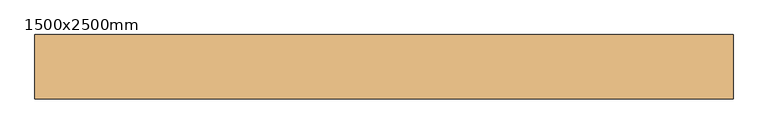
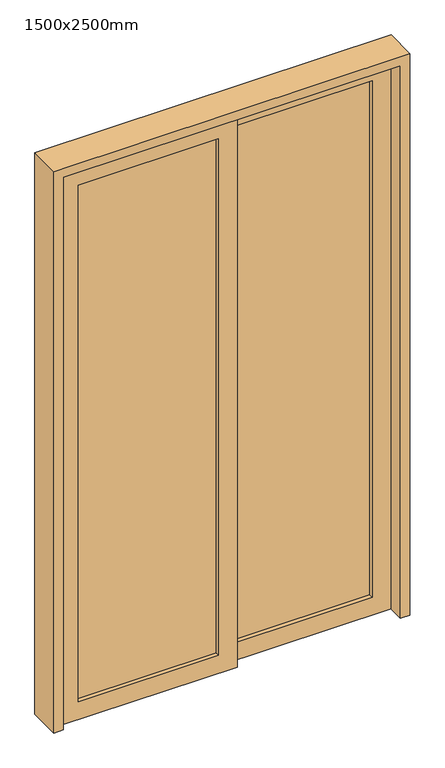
"""IFC4 building model written with IfcOpenShell, lengths in millimetres: door geometry, 双扇推拉门 : 1500x2500mm."""

from ifc_helpers import new_model, si_unit, frame, origin, place, context, project, spatial, polyline, outline, extrude, source, transform, mapped, element, save


def door_1500x2500mm_faec45d4(model_context):
    return source(origin(), model_context, "Body", "SweptSolid", [
        extrude(outline(polyline([(2500.0, -625.0), (0.0, -625.0), (0.0, -585.0), (2460.0, -585.0), (2460.0, 835.0), (0.0, 835.0), (0.0, 875.0), (2500.0, 875.0), (2500.0, -625.0)])), frame((0.0, -29.0, 0.0), z_axis=(0.0, 1.0, 0.0), x_axis=(0.0, 0.0, 1.0)), (0.0, 0.0, 1.0), 138.0),
        extrude(outline(polyline([(2460.0, 85.0), (0.0, 85.0), (0.0, 835.0), (2460.0, 835.0), (2460.0, 85.0)]), holes=[polyline([(2380.0, 165.0), (2380.0, 755.0), (80.0, 755.0), (80.0, 165.0), (2380.0, 165.0)])]), frame((0.0, 40.0, 0.0), z_axis=(0.0, 1.0, 0.0), x_axis=(0.0, 0.0, 1.0)), (0.0, 0.0, 1.0), 40.0),
        extrude(outline(polyline([(755.0, 62.5), (755.0, 57.5), (165.0, 57.5), (165.0, 62.5), (755.0, 62.5)])), frame((0.0, 0.0, 80.0), z_axis=(0.0, 0.0, 1.0), x_axis=(1.0, 0.0, 0.0)), (0.0, 0.0, 1.0), 2300.0),
        extrude(outline(polyline([(2460.0, -585.0), (0.0, -585.0), (0.0, 165.0), (2460.0, 165.0), (2460.0, -585.0)]), holes=[polyline([(2380.0, -505.0), (2380.0, 85.0), (80.0, 85.0), (80.0, -505.0), (2380.0, -505.0)])]), frame((0.0, 0.0, 0.0), z_axis=(0.0, 1.0, 0.0), x_axis=(0.0, 0.0, 1.0)), (0.0, 0.0, 1.0), 40.0),
        extrude(outline(polyline([(85.0, 22.5), (85.0, 17.5), (-505.0, 17.5), (-505.0, 22.5), (85.0, 22.5)])), frame((0.0, 0.0, 80.0), z_axis=(0.0, 0.0, 1.0), x_axis=(1.0, 0.0, 0.0)), (0.0, 0.0, 1.0), 2300.0),
    ])


if __name__ == "__main__":
    model = new_model("IFC4")
    model_context = context("Model", 3, world=origin())
    ifc_project = project(units=[si_unit("LENGTHUNIT", "METRE", prefix="MILLI")], contexts=[model_context])
    site = spatial("IfcSite", under=ifc_project)
    building = spatial("IfcBuilding", under=site)
    placement = place(None, origin())
    door_1500x2500mm_shape = door_1500x2500mm_faec45d4(model_context)
    element("IfcDoor", 1, ObjectType="双扇推拉门 : 1500x2500mm", at=placement, inside=building, context=model_context, shape_type="MappedRepresentation", body=[
        mapped(door_1500x2500mm_shape, transform((0.0, 0.0, 0.0), x_axis=(1.0, 0.0, 0.0), y_axis=(0.0, 1.0, 0.0), z_axis=(0.0, 0.0, 1.0))),
    ])
    save(model, "model.ifc")
